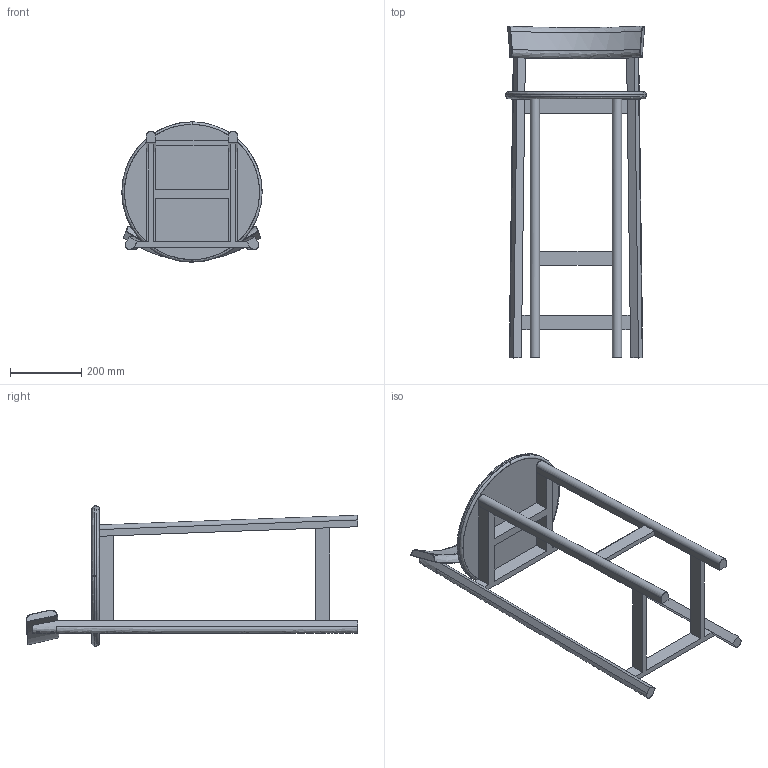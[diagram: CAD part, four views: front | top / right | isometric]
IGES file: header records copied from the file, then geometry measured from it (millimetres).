
Start section: SolidWorks IGES file using analytic representation for surfaces
Global section: file name: C:\Users\Utilizador\Downloads\798T Petit Barstool Chair_3D IGS.IGS; native system: SolidWorks 2016; preprocessor: SolidWorks 2016; author: Utilizador; date: 220223.150545; units: millimetre
Bounding box: 393.82 x 932.72 x 393.82 mm (x, y, z)
Surface area: 873156.7 mm2 (no closed solid volume)
Topology: 0 solids, 0 shells, 113 faces, 1657 edges, 1649 vertices
Faces by surface type: bspline 86, revolution 27
